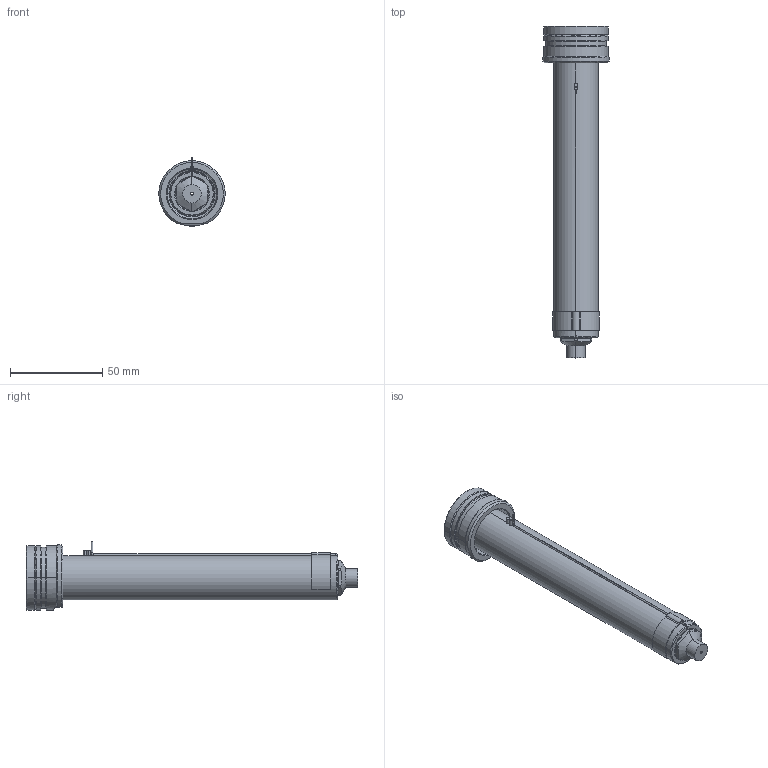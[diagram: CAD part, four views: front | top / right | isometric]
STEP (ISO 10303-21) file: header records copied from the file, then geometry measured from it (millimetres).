
FILE_DESCRIPTION((''),'2;1');
FILE_NAME('EO06_VG-FB_STD_160_SW','2024-02-19T13:25:21',('sundharh'),(''),'CREO PARAMETRIC BY PTC INC, 2023154','CREO PARAMETRIC BY PTC INC, 2023154','');
FILE_SCHEMA(('CONFIG_CONTROL_DESIGN'));
Length unit declared in the file: millimetre
Products named in the file (1): EO06_VG-FB_STD_160_SW
Bounding box: 35.93 x 180 x 37 mm (x, y, z)
Volume: 81388.2 mm3; surface area: 22725.3 mm2
Topology: 2 solids, 2 shells, 202 faces, 502 edges, 300 vertices
Faces by surface type: cylinder 76, plane 41, cone 38, torus 29, bspline 16, sphere 2
Entity records: 6974 total; most frequent: CARTESIAN_POINT 2120, DIRECTION 1084, ORIENTED_EDGE 988, EDGE_CURVE 494, AXIS2_PLACEMENT_3D 458, VERTEX_POINT 300, CIRCLE 272, EDGE_LOOP 216
